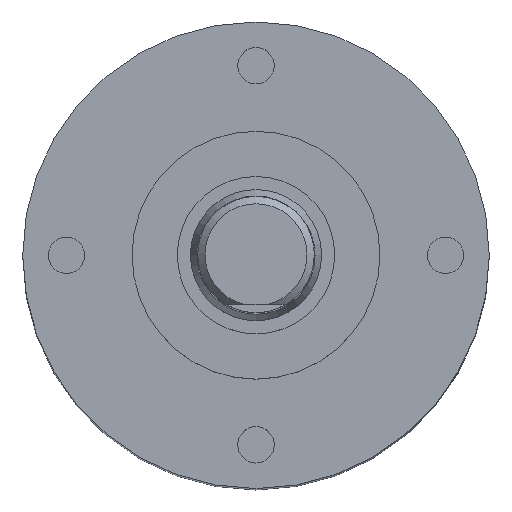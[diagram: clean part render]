
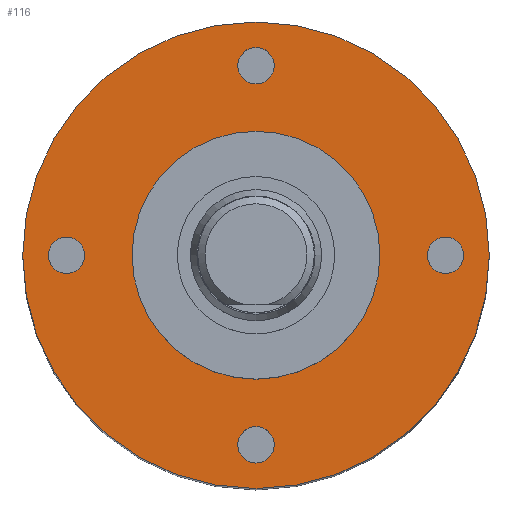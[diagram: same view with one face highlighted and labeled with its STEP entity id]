
A CAD part, top view. The second image highlights one B-rep face of the part: STEP entity #116.
In plain terms, the highlighted planar face has unit normal (0, 0, 1).
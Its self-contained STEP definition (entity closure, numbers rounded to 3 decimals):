
#34=PLANE('',#545);
#56=FACE_BOUND('',#182,.T.);
#57=FACE_BOUND('',#183,.T.);
#58=FACE_BOUND('',#184,.T.);
#59=FACE_BOUND('',#185,.T.);
#60=FACE_BOUND('',#186,.T.);
#61=FACE_BOUND('',#187,.T.);
#116=ADVANCED_FACE('',(#56,#57,#58,#59,#60,#61),#34,.T.);
#182=EDGE_LOOP('',(#267));
#183=EDGE_LOOP('',(#268));
#184=EDGE_LOOP('',(#269));
#185=EDGE_LOOP('',(#270));
#186=EDGE_LOOP('',(#271));
#187=EDGE_LOOP('',(#272));
#267=ORIENTED_EDGE('',*,*,#389,.T.);
#268=ORIENTED_EDGE('',*,*,#390,.T.);
#269=ORIENTED_EDGE('',*,*,#391,.T.);
#270=ORIENTED_EDGE('',*,*,#392,.T.);
#271=ORIENTED_EDGE('',*,*,#393,.F.);
#272=ORIENTED_EDGE('',*,*,#387,.T.);
#348=VERTEX_POINT('',#810);
#350=VERTEX_POINT('',#816);
#351=VERTEX_POINT('',#818);
#352=VERTEX_POINT('',#820);
#353=VERTEX_POINT('',#822);
#354=VERTEX_POINT('',#824);
#387=EDGE_CURVE('',#348,#348,#457,.T.);
#389=EDGE_CURVE('',#350,#350,#459,.T.);
#390=EDGE_CURVE('',#351,#351,#460,.T.);
#391=EDGE_CURVE('',#352,#352,#461,.T.);
#392=EDGE_CURVE('',#353,#353,#462,.T.);
#393=EDGE_CURVE('',#354,#354,#463,.T.);
#457=CIRCLE('',#536,16.);
#459=CIRCLE('',#540,1.25);
#460=CIRCLE('',#541,1.25);
#461=CIRCLE('',#542,1.25);
#462=CIRCLE('',#543,1.25);
#463=CIRCLE('',#544,8.5);
#536=AXIS2_PLACEMENT_3D('',#809,#638,#639);
#540=AXIS2_PLACEMENT_3D('',#815,#646,#647);
#541=AXIS2_PLACEMENT_3D('',#817,#648,#649);
#542=AXIS2_PLACEMENT_3D('',#819,#650,#651);
#543=AXIS2_PLACEMENT_3D('',#821,#652,#653);
#544=AXIS2_PLACEMENT_3D('',#823,#654,#655);
#545=AXIS2_PLACEMENT_3D('',#825,#656,#657);
#638=DIRECTION('',(0.,0.,1.));
#639=DIRECTION('',(1.,0.,0.));
#646=DIRECTION('',(0.,0.,-1.));
#647=DIRECTION('',(0.,-1.,0.));
#648=DIRECTION('',(0.,0.,-1.));
#649=DIRECTION('',(1.,0.,0.));
#650=DIRECTION('',(0.,0.,-1.));
#651=DIRECTION('',(0.,1.,0.));
#652=DIRECTION('',(0.,0.,-1.));
#653=DIRECTION('',(-1.,0.,0.));
#654=DIRECTION('',(0.,0.,1.));
#655=DIRECTION('',(1.,0.,0.));
#656=DIRECTION('',(0.,0.,1.));
#657=DIRECTION('',(1.,0.,0.));
#809=CARTESIAN_POINT('',(0.,0.,57.2));
#810=CARTESIAN_POINT('',(16.,0.,57.2));
#815=CARTESIAN_POINT('',(-13.,0.,57.2));
#816=CARTESIAN_POINT('',(-13.,-1.25,57.2));
#817=CARTESIAN_POINT('',(0.,-13.,57.2));
#818=CARTESIAN_POINT('',(1.25,-13.,57.2));
#819=CARTESIAN_POINT('',(13.,0.,57.2));
#820=CARTESIAN_POINT('',(13.,1.25,57.2));
#821=CARTESIAN_POINT('',(0.,13.,57.2));
#822=CARTESIAN_POINT('',(-1.25,13.,57.2));
#823=CARTESIAN_POINT('',(0.,0.,57.2));
#824=CARTESIAN_POINT('',(8.5,0.,57.2));
#825=CARTESIAN_POINT('',(0.,0.,57.2));
